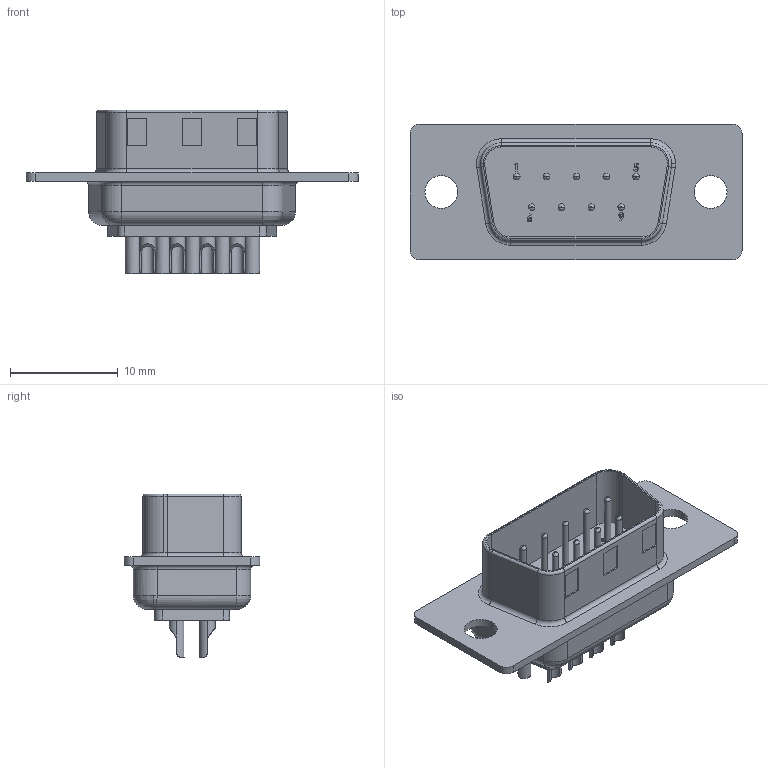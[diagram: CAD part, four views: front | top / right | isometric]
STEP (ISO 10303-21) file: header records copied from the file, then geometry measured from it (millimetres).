
FILE_DESCRIPTION(('FreeCAD Model'),'2;1');
FILE_NAME('C:/Users/Metaltex-99/Desktop/DBSM-09.stp', '2020-12-23T08:10:56',('Engenharia Metaltex'),('Metaltex'), 'Open CASCADE STEP processor 7.3','FreeCAD','Unknown');
FILE_SCHEMA(('AUTOMOTIVE_DESIGN { 1 0 10303 214 1 1 1 1 }'));
Length unit declared in the file: millimetre
Products named in the file (1): DBSM-09
Bounding box: 30.81 x 12.6 x 15.21 mm (x, y, z)
Volume: 1283.5 mm3; surface area: 1941.3 mm2
Topology: 1 solids, 1 shells, 390 faces, 941 edges, 598 vertices
Faces by surface type: plane 165, cylinder 139, bspline 48, revolution 23, torus 15
Entity records: 30996 total; most frequent: CARTESIAN_POINT 12704, DIRECTION 3147, ORIENTED_EDGE 1882, PCURVE 1882, DEFINITIONAL_REPRESENTATION 1882, LINE 1857, VECTOR 1857, EDGE_CURVE 941
